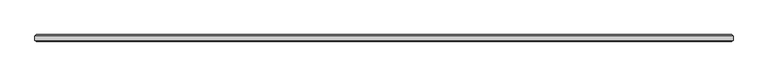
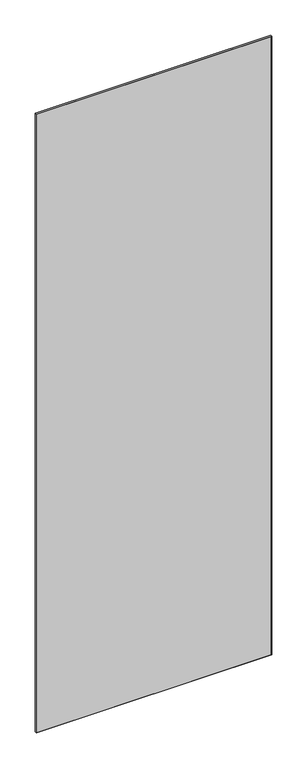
"""IFC4 building model written with IfcOpenShell, lengths in millimetres: plate geometry, 11-AMG-1-Панель одинарный витраж 10-12 : Центр Толщина 10mm."""

from ifc_helpers import new_model, si_unit, origin, place, context, project, spatial, faceted_brep, source, transform, mapped, element, save


def plate_dd258e1c(model_context):
    return source(origin(), model_context, "Body", "Brep", [
        faceted_brep([(498.9853624, -3.4961653, 2777.0), (498.9853624, 3.4961653, 2777.0), (-498.9853624, 3.4961653, 2777.0), (-498.9853624, -3.4961653, 2777.0), (498.9853624, 3.4961653, 5.0), (498.9853624, -3.4961653, 5.0), (-498.9853624, -3.4961653, 5.0), (-498.9853624, 3.4961653, 5.0), (-497.4815277, 5.0, 2775.4961653), (497.4815277, 5.0, 2775.4961653), (497.4815277, 5.0, 6.4960578), (-497.4815277, 5.0, 6.4960578), (497.4815277, -5.0, 2775.4961653), (-497.4815277, -5.0, 2775.4961653), (-497.4815277, -5.0, 6.5038347), (497.4815277, -5.0, 6.5038347)], [[[0, 1, 2, 3]], [[4, 5, 6, 7]], [[8, 9, 10, 11]], [[3, 2, 7, 6]], [[12, 13, 14, 15]], [[1, 0, 5, 4]], [[1, 4, 10, 9]], [[5, 0, 12, 15]], [[7, 2, 8, 11]], [[3, 6, 14, 13]], [[0, 3, 13, 12]], [[2, 1, 9, 8]], [[6, 5, 15, 14]], [[4, 7, 11, 10]]]),
    ])


if __name__ == "__main__":
    model = new_model("IFC4")
    model_context = context("Model", 3, world=origin())
    ifc_project = project(units=[si_unit("LENGTHUNIT", "METRE", prefix="MILLI")], contexts=[model_context])
    site = spatial("IfcSite", under=ifc_project)
    building = spatial("IfcBuilding", under=site)
    placement = place(None, origin())
    plate_shape = plate_dd258e1c(model_context)
    element("IfcPlate", 1, ObjectType="11-AMG-1-Панель одинарный витраж 10-12 : Центр Толщина 10mm", at=placement, inside=building, context=model_context, shape_type="MappedRepresentation", body=[
        mapped(plate_shape, transform((0.0, 0.0, 0.0), x_axis=(1.0, 0.0, 0.0), y_axis=(0.0, 1.0, 0.0), z_axis=(0.0, 0.0, 1.0))),
    ])
    save(model, "model.ifc")
